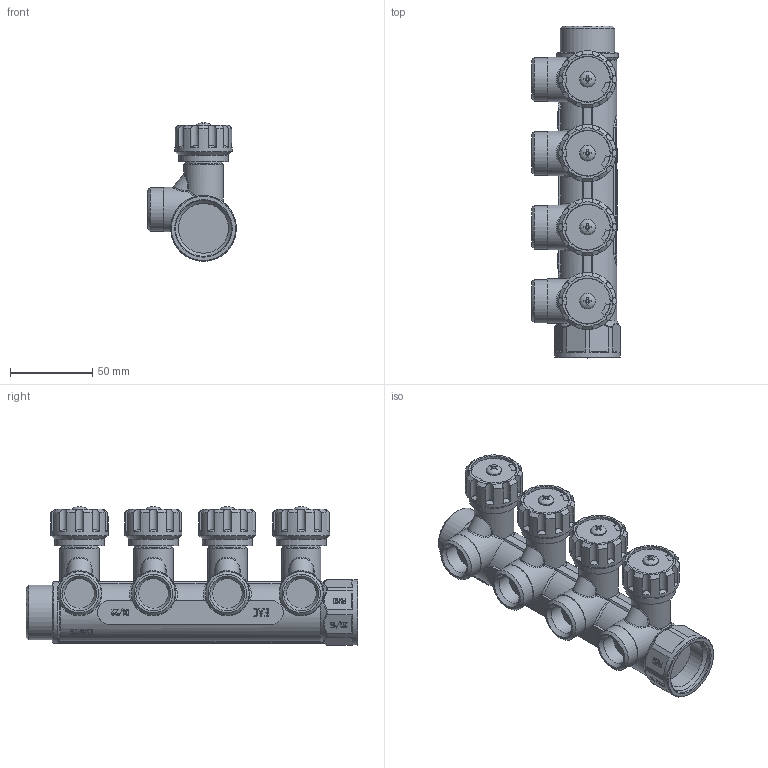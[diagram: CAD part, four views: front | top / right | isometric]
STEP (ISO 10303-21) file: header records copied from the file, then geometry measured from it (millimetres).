
FILE_DESCRIPTION(('STEP AP203'), '1');
FILE_NAME('VTc.570.NE.0604', '2024-06-18T07:29:49', ('User'), ('Vesta'), 'C3D Converter', 'C3D Toolkit', '');
FILE_SCHEMA(('CONFIG_CONTROL_DESIGN'));
Length unit declared in the file: millimetre
Products named in the file (1): ВР.622621.020.000 СБ
Bounding box: 54 x 202 x 84.28 mm (x, y, z)
Volume: 343058.6 mm3; surface area: 58545.4 mm2
Topology: 1 solids, 1 shells, 1225 faces, 3392 edges, 2220 vertices
Faces by surface type: plane 504, extrusion 338, cylinder 196, cone 113, bspline 59, torus 15
Full cylindrical faces by diameter (mm): 9.5 x4, 18.1 x4, 23 x4, 24 x4, 25 x1, 26.441 x4, 27.1 x4, 30.292 x1, 30.3 x4, 33.249 x1, 34 x1, 34.8 x4, 37.5 x1, 40 x1
Entity records: 61429 total; most frequent: CARTESIAN_POINT 32621, ORIENTED_EDGE 6618, DIRECTION 4628, EDGE_CURVE 3309, VERTEX_POINT 2219, VECTOR 1950, LINE 1612, B_SPLINE_CURVE_WITH_KNOTS 1429
